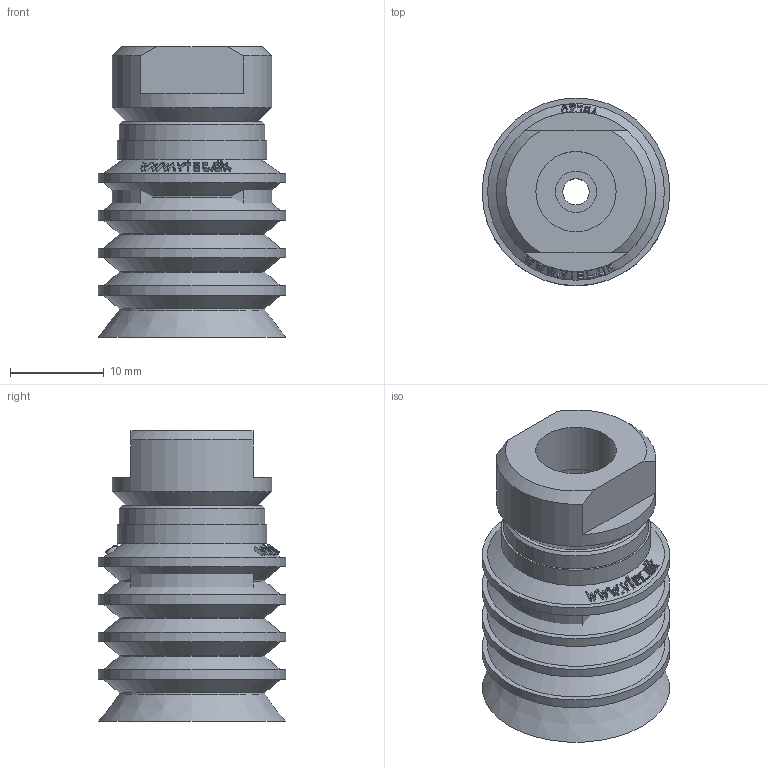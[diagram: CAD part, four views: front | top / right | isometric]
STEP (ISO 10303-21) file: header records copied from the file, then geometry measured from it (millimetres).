
FILE_DESCRIPTION( ( 'Unknown' ), '1' );
FILE_NAME( 'C:/Documents and Settings/owner/官帕 拳搁/MISUMI/PAD/VBL/VBL20-N-18F.stp', 'Unknown', ( 'Unknown' ), ( 'Unknown' ), 'XStep 1.0', 'Unknown', ' ' );
FILE_SCHEMA( ( 'automotive_design' ) );
Length unit declared in the file: millimetre
Products named in the file (3): Assem1; 1_0; VBL 20 18F
Bounding box: 20 x 20 x 31 mm (x, y, z)
Volume: 5760.6 mm3; surface area: 10204.3 mm2
Topology: 4 solids, 4 shells, 460 faces, 1108 edges, 740 vertices
Faces by surface type: bspline 262, cone 94, plane 58, cylinder 38, torus 8
Full cylindrical faces by diameter (mm): 2.8 x2, 4 x2, 4.4 x2, 4.6 x2, 5.5 x2, 5.6 x2, 5.8 x2, 6.3 x2, 6.5 x2, 8 x2, 8.566 x2, 10.2 x2, 15.5 x2, 15.9 x2, 17 x2, 20 x8
Entity records: 11749 total; most frequent: CARTESIAN_POINT 5927, ORIENTED_EDGE 960, DIRECTION 487, EDGE_CURVE 480, VERTEX_POINT 345, EDGE_LOOP 325, B_SPLINE_CURVE_WITH_KNOTS 274, FACE_OUTER_BOUND 255
